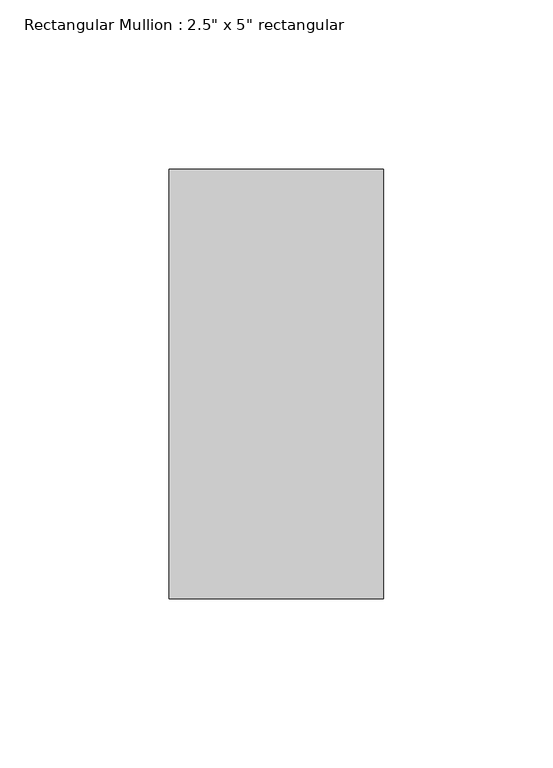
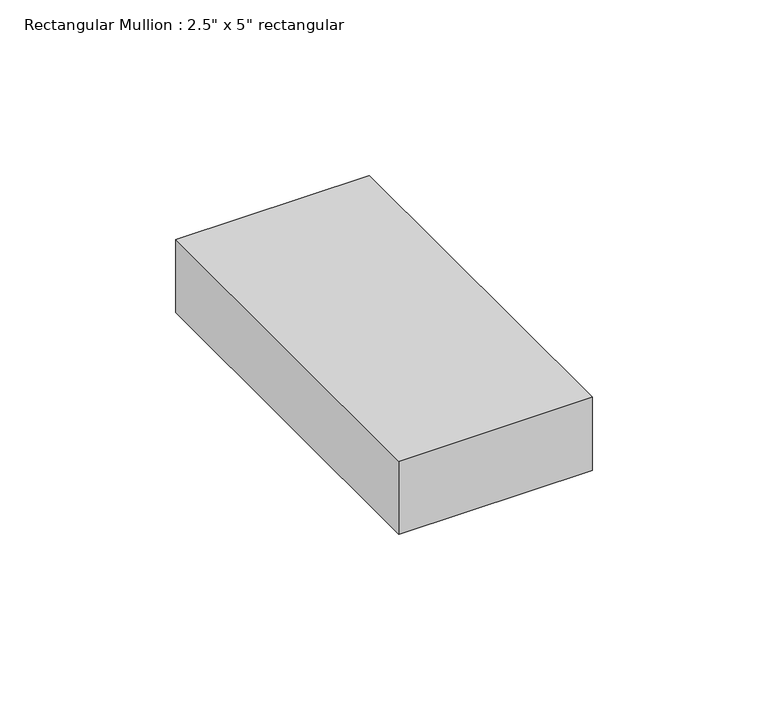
"""IFC4 building model written with IfcOpenShell, lengths in millimetres: member geometry."""

from ifc_helpers import new_model, si_unit, frame, origin, place, context, project, spatial, polyline, outline, extrude, source, transform, mapped, element, save


def member_ba732fc4(model_context):
    return source(origin(), model_context, "Body", "SweptSolid", [
        extrude(outline(polyline([(0.0, 63.5), (0.0, -63.5), (-63.5, -63.5), (-63.5, 63.5), (0.0, 63.5)])), frame((0.0, 0.0, -25.4), z_axis=(0.0, 0.0, 1.0), x_axis=(1.0, 0.0, 0.0)), (0.0, 0.0, 1.0), 25.4),
    ])


if __name__ == "__main__":
    model = new_model("IFC4")
    model_context = context("Model", 3, world=origin())
    ifc_project = project(units=[si_unit("LENGTHUNIT", "METRE", prefix="MILLI")], contexts=[model_context])
    site = spatial("IfcSite", under=ifc_project)
    building = spatial("IfcBuilding", under=site)
    placement = place(None, origin())
    member_shape = member_ba732fc4(model_context)
    element("IfcMember", 1, ObjectType="Rectangular Mullion : 2.5\" x 5\" rectangular", at=placement, inside=building, context=model_context, shape_type="MappedRepresentation", body=[
        mapped(member_shape, transform((0.0, 0.0, 0.0), x_axis=(1.0, 0.0, 0.0), y_axis=(0.0, 1.0, 0.0), z_axis=(0.0, 0.0, 1.0))),
    ])
    save(model, "model.ifc")
